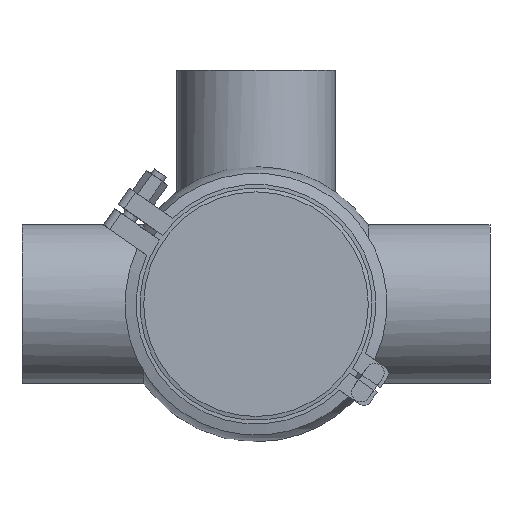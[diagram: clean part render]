
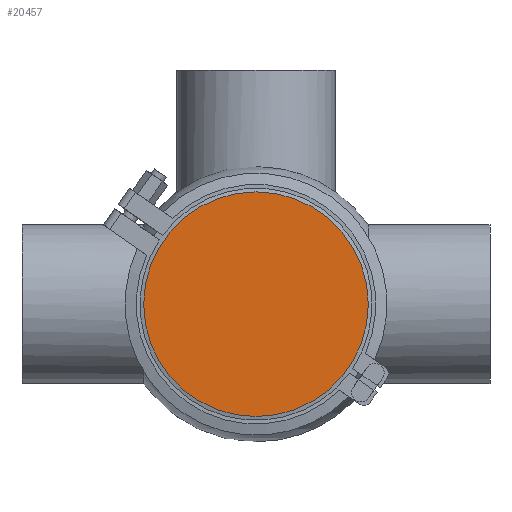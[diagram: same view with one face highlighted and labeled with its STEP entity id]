
A CAD part, front view. The second image highlights one B-rep face of the part: STEP entity #20457.
In plain terms, the highlighted planar face has unit normal (0, -1, 0).
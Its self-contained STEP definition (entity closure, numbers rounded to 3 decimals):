
#1322 = DIRECTION ( 'NONE',  ( 0., -1., 0. ) ) ;
#1675 = EDGE_CURVE ( 'NONE', #13170, #13170, #10945, .T. ) ;
#2470 = CARTESIAN_POINT ( 'NONE',  ( 0., 0., 0. ) ) ;
#4663 = AXIS2_PLACEMENT_3D ( 'NONE', #2470, #17351, #19323 ) ;
#4946 = EDGE_LOOP ( 'NONE', ( #7663 ) ) ;
#7663 = ORIENTED_EDGE ( 'NONE', *, *, #1675, .F. ) ;
#7741 = CARTESIAN_POINT ( 'NONE',  ( -60., 0., 0. ) ) ;
#8276 = CARTESIAN_POINT ( 'NONE',  ( 0., 0., 60. ) ) ;
#8660 = AXIS2_PLACEMENT_3D ( 'NONE', #7741, #1322, #14361 ) ;
#9392 = FACE_OUTER_BOUND ( 'NONE', #4946, .T. ) ;
#10945 = CIRCLE ( 'NONE', #4663, 60. ) ;
#11229 = PLANE ( 'NONE',  #8660 ) ;
#13170 = VERTEX_POINT ( 'NONE', #8276 ) ;
#14361 = DIRECTION ( 'NONE',  ( 0., 0., -1. ) ) ;
#17351 = DIRECTION ( 'NONE',  ( 0., 1., 0. ) ) ;
#19323 = DIRECTION ( 'NONE',  ( 0., 0., 1. ) ) ;
#20457 = ADVANCED_FACE ( 'NONE', ( #9392 ), #11229, .T. ) ;
